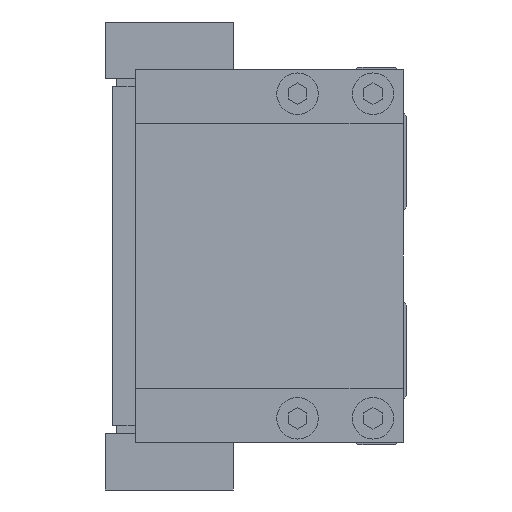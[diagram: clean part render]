
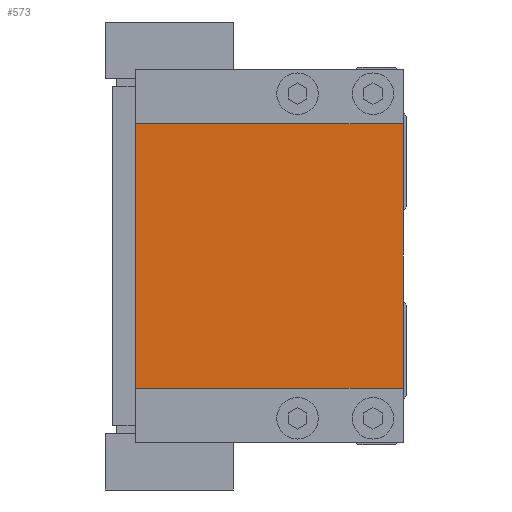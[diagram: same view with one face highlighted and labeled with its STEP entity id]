
A CAD part, left-side view. The second image highlights one B-rep face of the part: STEP entity #573.
In plain terms, the highlighted planar face has unit normal (-1, 0, 0).
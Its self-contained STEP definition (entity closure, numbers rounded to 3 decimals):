
#573 = ADVANCED_FACE( '', ( #1519 ), #1520, .F. );
#1519 = FACE_OUTER_BOUND( '', #3061, .T. );
#1520 = PLANE( '', #3062 );
#3061 = EDGE_LOOP( '', ( #5800, #5801, #5802, #5803 ) );
#3062 = AXIS2_PLACEMENT_3D( '', #5804, #5805, #5806 );
#5800 = ORIENTED_EDGE( '', *, *, #10227, .F. );
#5801 = ORIENTED_EDGE( '', *, *, #10235, .F. );
#5802 = ORIENTED_EDGE( '', *, *, #10231, .F. );
#5803 = ORIENTED_EDGE( '', *, *, #10236, .F. );
#5804 = CARTESIAN_POINT( '', ( -10., 0., 0. ) );
#5805 = DIRECTION( '', ( 1., 0., 0. ) );
#5806 = DIRECTION( '', ( 0., 0., -1. ) );
#10227 = EDGE_CURVE( '', #12339, #12340, #12341, .T. );
#10231 = EDGE_CURVE( '', #12347, #12348, #12349, .T. );
#10235 = EDGE_CURVE( '', #12348, #12339, #12355, .T. );
#10236 = EDGE_CURVE( '', #12340, #12347, #12356, .T. );
#12339 = VERTEX_POINT( '', #15586 );
#12340 = VERTEX_POINT( '', #15587 );
#12341 = LINE( '', #15588, #15589 );
#12347 = VERTEX_POINT( '', #15598 );
#12348 = VERTEX_POINT( '', #15599 );
#12349 = LINE( '', #15600, #15601 );
#12355 = LINE( '', #15610, #15611 );
#12356 = LINE( '', #15612, #15613 );
#15586 = CARTESIAN_POINT( '', ( -10., -15.5, -17.5 ) );
#15587 = CARTESIAN_POINT( '', ( -10., 20., -17.5 ) );
#15588 = CARTESIAN_POINT( '', ( -10., -15.5, -17.5 ) );
#15589 = VECTOR( '', #19043, 1. );
#15598 = CARTESIAN_POINT( '', ( -10., 20., 17.5 ) );
#15599 = CARTESIAN_POINT( '', ( -10., -15.5, 17.5 ) );
#15600 = CARTESIAN_POINT( '', ( -10., 20., 17.5 ) );
#15601 = VECTOR( '', #19047, 1. );
#15610 = CARTESIAN_POINT( '', ( -10., -15.5, 17.5 ) );
#15611 = VECTOR( '', #19051, 1. );
#15612 = CARTESIAN_POINT( '', ( -10., 20., -17.5 ) );
#15613 = VECTOR( '', #19052, 1. );
#19043 = DIRECTION( '', ( 0., 1., 0. ) );
#19047 = DIRECTION( '', ( 0., -1., 0. ) );
#19051 = DIRECTION( '', ( 0., 0., -1. ) );
#19052 = DIRECTION( '', ( 0., 0., 1. ) );
